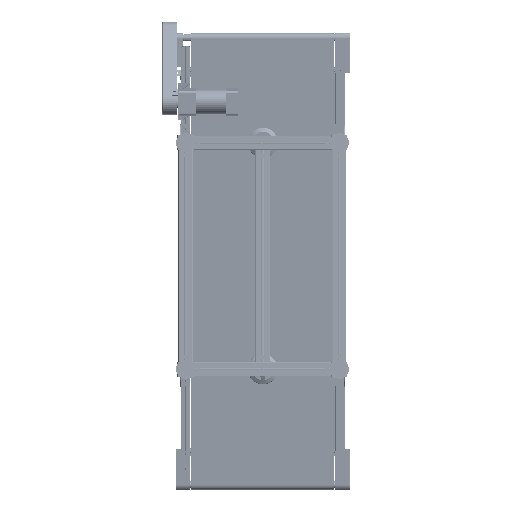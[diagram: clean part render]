
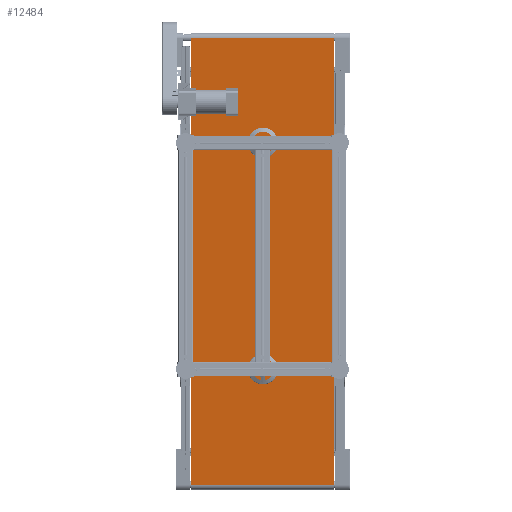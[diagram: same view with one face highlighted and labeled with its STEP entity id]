
A CAD part, front view. The second image highlights one B-rep face of the part: STEP entity #12484.
In plain terms, the highlighted planar face has unit normal (0, -0.993, -0.121) as drawn and (0, -1, 0) by its records, which use the part's own axes.
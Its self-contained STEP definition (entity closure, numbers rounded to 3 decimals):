
#12484=ADVANCED_FACE('',(#17002),#14129,.F.);
#14129=PLANE('',#68461);
#17002=FACE_OUTER_BOUND('',#20440,.T.);
#20440=EDGE_LOOP('',(#37491,#37492,#37493,#37494));
#37491=ORIENTED_EDGE('',*,*,#53677,.T.);
#37492=ORIENTED_EDGE('',*,*,#53678,.F.);
#37493=ORIENTED_EDGE('',*,*,#53679,.F.);
#37494=ORIENTED_EDGE('',*,*,#53672,.T.);
#44744=VERTEX_POINT('',#115465);
#44746=VERTEX_POINT('',#115469);
#44751=VERTEX_POINT('',#115482);
#44752=VERTEX_POINT('',#115484);
#53672=EDGE_CURVE('',#44744,#44746,#58733,.T.);
#53677=EDGE_CURVE('',#44746,#44751,#58736,.T.);
#53678=EDGE_CURVE('',#44752,#44751,#58737,.T.);
#53679=EDGE_CURVE('',#44744,#44752,#58738,.T.);
#58733=LINE('',#115470,#63754);
#58736=LINE('',#115481,#63757);
#58737=LINE('',#115483,#63758);
#58738=LINE('',#115485,#63759);
#63754=VECTOR('',#82776,1.);
#63757=VECTOR('',#82787,1.);
#63758=VECTOR('',#82788,1.);
#63759=VECTOR('',#82789,1.);
#68461=AXIS2_PLACEMENT_3D('',#115486,#82790,#82791);
#82776=DIRECTION('',(1.,0.,0.));
#82787=DIRECTION('',(0.,0.,1.));
#82788=DIRECTION('',(1.,0.,0.));
#82789=DIRECTION('',(0.,0.,1.));
#82790=DIRECTION('',(0.,1.,0.));
#82791=DIRECTION('',(0.,0.,-1.));
#115465=CARTESIAN_POINT('',(-617.5,-20.,-85.));
#115469=CARTESIAN_POINT('',(-22.5,-20.,-85.));
#115470=CARTESIAN_POINT('',(-617.5,-20.,-85.));
#115481=CARTESIAN_POINT('',(-22.5,-20.,0.));
#115482=CARTESIAN_POINT('',(-22.5,-20.,1780.));
#115483=CARTESIAN_POINT('',(-617.5,-20.,1780.));
#115484=CARTESIAN_POINT('',(-617.5,-20.,1780.));
#115485=CARTESIAN_POINT('',(-617.5,-20.,0.));
#115486=CARTESIAN_POINT('',(-617.5,-20.,0.));
